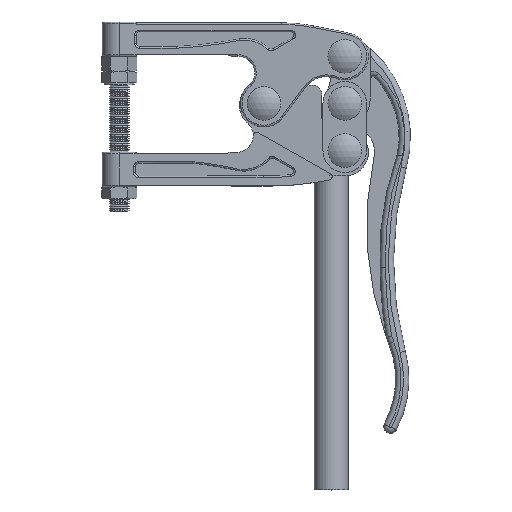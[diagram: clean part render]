
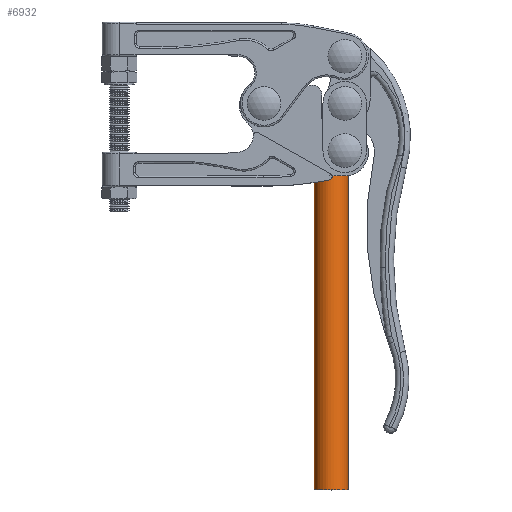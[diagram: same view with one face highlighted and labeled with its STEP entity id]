
A CAD part, top view. The second image highlights one B-rep face of the part: STEP entity #6932.
In plain terms, the highlighted cylindrical face has radius 3.125 mm (diameter 6.25 mm), a full revolution.
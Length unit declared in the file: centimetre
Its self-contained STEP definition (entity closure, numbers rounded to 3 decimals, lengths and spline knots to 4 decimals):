
#998=CYLINDRICAL_SURFACE('',#7733,0.3125);
#1267=FACE_BOUND('',#2265,.T.);
#1594=FACE_OUTER_BOUND('',#2264,.T.);
#2264=EDGE_LOOP('',(#5524));
#2265=EDGE_LOOP('',(#5525));
#2773=CIRCLE('',#7734,0.3125);
#2774=CIRCLE('',#7735,0.3125);
#3350=VERTEX_POINT('',#11960);
#3351=VERTEX_POINT('',#11962);
#4114=EDGE_CURVE('',#3350,#3350,#2773,.T.);
#4115=EDGE_CURVE('',#3351,#3351,#2774,.T.);
#5524=ORIENTED_EDGE('',*,*,#4114,.F.);
#5525=ORIENTED_EDGE('',*,*,#4115,.F.);
#6932=ADVANCED_FACE('',(#1594,#1267),#998,.T.);
#7733=AXIS2_PLACEMENT_3D('',#11959,#9433,#9434);
#7734=AXIS2_PLACEMENT_3D('',#11961,#9435,#9436);
#7735=AXIS2_PLACEMENT_3D('',#11963,#9437,#9438);
#9433=DIRECTION('center_axis',(0.,1.,0.));
#9434=DIRECTION('ref_axis',(1.,0.,0.));
#9435=DIRECTION('center_axis',(0.,-1.,0.));
#9436=DIRECTION('ref_axis',(1.,0.,0.));
#9437=DIRECTION('center_axis',(0.,1.,0.));
#9438=DIRECTION('ref_axis',(-1.,0.,0.));
#11959=CARTESIAN_POINT('Origin',(34.5962,2.8535,0.));
#11960=CARTESIAN_POINT('',(34.2837,0.,0.));
#11961=CARTESIAN_POINT('Origin',(34.5962,0.,
0.));
#11962=CARTESIAN_POINT('',(34.2837,5.833,0.));
#11963=CARTESIAN_POINT('Origin',(34.5962,5.833,0.));
